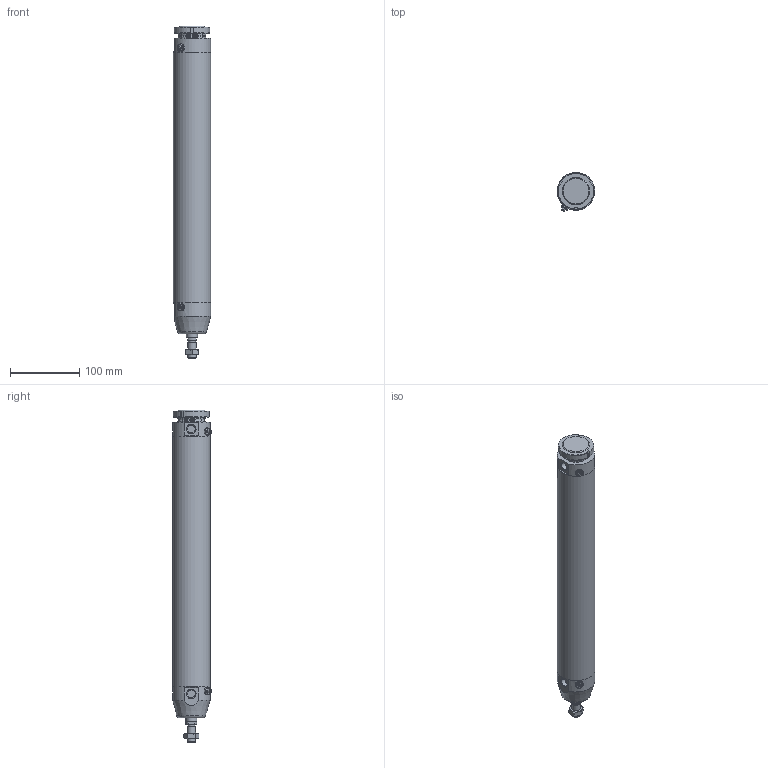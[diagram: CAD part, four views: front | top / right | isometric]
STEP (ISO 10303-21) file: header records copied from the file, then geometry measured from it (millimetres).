
FILE_DESCRIPTION(/* description */ (''),/* implementation_level */ '2;1');
FILE_NAME(/* name */ 'I:\Area Tecnica\Documenti\A-Manieri\_Inventor\12X\12X#B_###_####_#_#\12XBB_050_0320_#_#.stp',/* time_stamp */ '2015-04-28T14:29:17+02:00',/* author */ ('maniean1'),/* organization */ ('Pneumax S.p.A.'),/* preprocessor_version */ 'ST-DEVELOPER v15.2',/* originating_system */ 'Autodesk Inventor 2014',/* authorisation */ '');
FILE_SCHEMA (('AUTOMOTIVE_DESIGN { 1 0 10303 214 3 1 1 }'));
Length unit declared in the file: millimetre
Products named in the file (7): C1250_619-0320; 12X50_614; S12X50_0320; 12X_50_11; 12X50_621; G12X_050_05; 12XBB_050_0320_#_#
Bounding box: 54 x 55.88 x 480 mm (x, y, z)
Volume: 436440.6 mm3; surface area: 178019.5 mm2
Topology: 6 solids, 6 shells, 98 faces, 217 edges, 140 vertices
Faces by surface type: plane 52, cylinder 24, cone 19, torus 3
Full cylindrical faces by diameter (mm): 5 x2, 10.2 x1, 11 x2, 11.4 x2, 12 x2, 14 x1, 15.6 x1, 16 x1, 38.2 x1, 40 x3, 50 x2, 54 x3
Entity records: 2646 total; most frequent: CARTESIAN_POINT 539, DIRECTION 439, ORIENTED_EDGE 346, AXIS2_PLACEMENT_3D 186, EDGE_CURVE 173, EDGE_LOOP 150, VERTEX_POINT 131, ADVANCED_FACE 98
